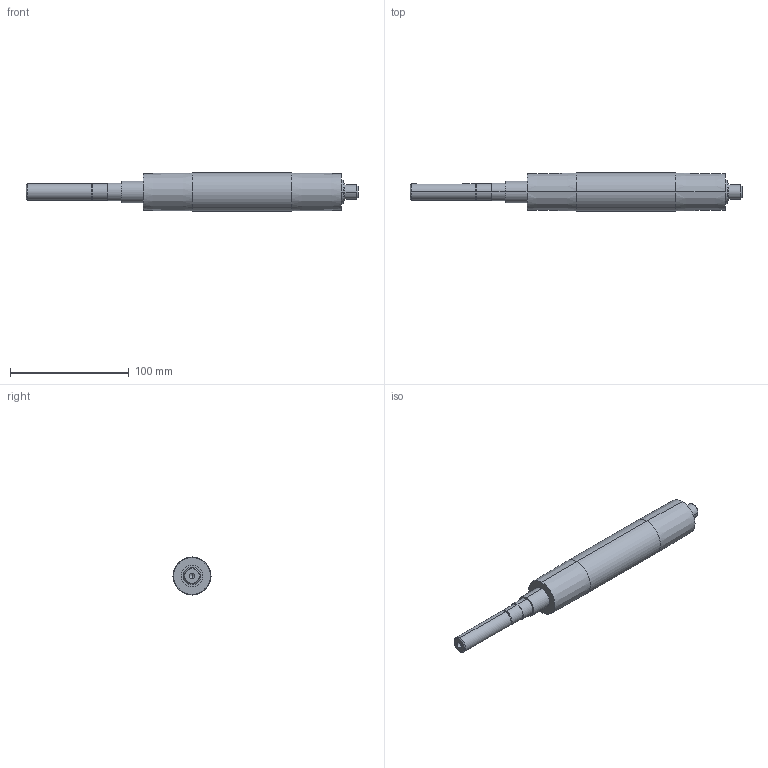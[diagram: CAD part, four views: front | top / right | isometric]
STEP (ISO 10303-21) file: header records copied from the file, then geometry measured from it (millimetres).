
FILE_DESCRIPTION (( 'STEP AP214' ), '1' );
FILE_NAME ('084.030.132.STEP', '2021-02-05T15:42:14', ( '' ), ( '' ), 'SwSTEP 2.0', 'SolidWorks 2018', '' );
FILE_SCHEMA (( 'AUTOMOTIVE_DESIGN' ));
Length unit declared in the file: millimetre
Products named in the file (1): 084.030.132
Bounding box: 279.5 x 32 x 32 mm (x, y, z)
Volume: 150524.8 mm3; surface area: 23877.8 mm2
Topology: 1 solids, 1 shells, 45 faces, 92 edges, 57 vertices
Faces by surface type: cylinder 22, plane 13, cone 10
Entity records: 1296 total; most frequent: CARTESIAN_POINT 255, DIRECTION 230, ORIENTED_EDGE 180, AXIS2_PLACEMENT_3D 96, EDGE_CURVE 90, VERTEX_POINT 57, EDGE_LOOP 55, CIRCLE 50
